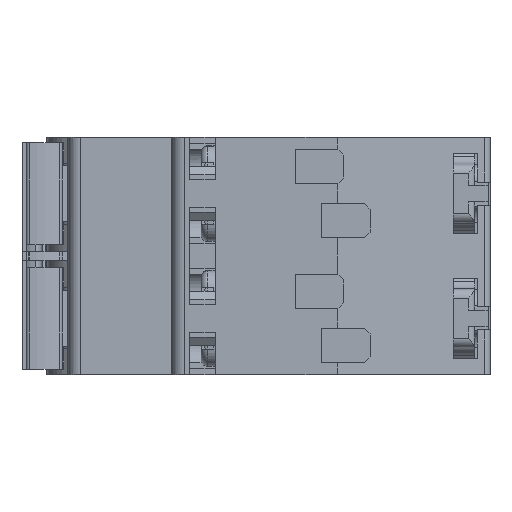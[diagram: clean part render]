
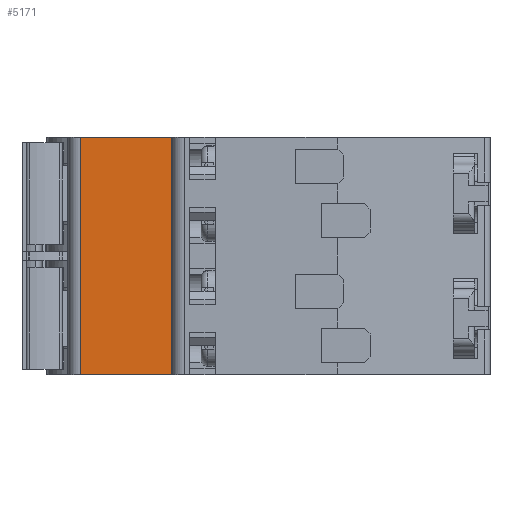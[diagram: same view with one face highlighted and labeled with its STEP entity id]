
A CAD part, front view. The second image highlights one B-rep face of the part: STEP entity #5171.
In plain terms, the highlighted planar face has unit normal (0, -1, 0).
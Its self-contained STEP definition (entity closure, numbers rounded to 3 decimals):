
#716 = ORIENTED_EDGE ( 'NONE', *, *, #3400, .T. ) ;
#1292 = LINE ( 'NONE', #12521, #17061 ) ;
#1722 = EDGE_CURVE ( 'NONE', #4337, #16403, #6128, .T. ) ;
#2529 = CARTESIAN_POINT ( 'NONE',  ( -14.3, 18., -0.075 ) ) ;
#2749 = ORIENTED_EDGE ( 'NONE', *, *, #1722, .T. ) ;
#3400 = EDGE_CURVE ( 'NONE', #10444, #4337, #10225, .T. ) ;
#4337 = VERTEX_POINT ( 'NONE', #15540 ) ;
#4346 = DIRECTION ( 'NONE',  ( -1., 0., 0. ) ) ;
#4669 = CARTESIAN_POINT ( 'NONE',  ( -14.3, 18., 17.5 ) ) ;
#5171 = ADVANCED_FACE ( 'NONE', ( #15755 ), #10154, .T. ) ;
#5826 = ORIENTED_EDGE ( 'NONE', *, *, #10750, .F. ) ;
#6128 = LINE ( 'NONE', #4669, #8505 ) ;
#6246 = ORIENTED_EDGE ( 'NONE', *, *, #17869, .F. ) ;
#6467 = VECTOR ( 'NONE', #10262, 1000. ) ;
#8262 = VECTOR ( 'NONE', #4346, 1000. ) ;
#8505 = VECTOR ( 'NONE', #10277, 1000. ) ;
#10051 = CARTESIAN_POINT ( 'NONE',  ( 0., 18., 37.175 ) ) ;
#10154 = PLANE ( 'NONE',  #12668 ) ;
#10225 = LINE ( 'NONE', #10051, #8262 ) ;
#10245 = CARTESIAN_POINT ( 'NONE',  ( 0., 18., 17.5 ) ) ;
#10262 = DIRECTION ( 'NONE',  ( -1., 0., 0. ) ) ;
#10277 = DIRECTION ( 'NONE',  ( 0., 0., -1. ) ) ;
#10318 = EDGE_LOOP ( 'NONE', ( #5826, #716, #2749, #6246 ) ) ;
#10444 = VERTEX_POINT ( 'NONE', #16023 ) ;
#10449 = LINE ( 'NONE', #13293, #6467 ) ;
#10750 = EDGE_CURVE ( 'NONE', #10444, #13221, #1292, .T. ) ;
#11282 = DIRECTION ( 'NONE',  ( 1., 0., 0. ) ) ;
#12521 = CARTESIAN_POINT ( 'NONE',  ( 0., 18., 17.5 ) ) ;
#12655 = DIRECTION ( 'NONE',  ( 0., -1., 0. ) ) ;
#12668 = AXIS2_PLACEMENT_3D ( 'NONE', #10245, #12655, #11282 ) ;
#13221 = VERTEX_POINT ( 'NONE', #13688 ) ;
#13293 = CARTESIAN_POINT ( 'NONE',  ( 0., 18., -0.075 ) ) ;
#13688 = CARTESIAN_POINT ( 'NONE',  ( 0., 18., -0.075 ) ) ;
#15540 = CARTESIAN_POINT ( 'NONE',  ( -14.3, 18., 37.175 ) ) ;
#15755 = FACE_OUTER_BOUND ( 'NONE', #10318, .T. ) ;
#16023 = CARTESIAN_POINT ( 'NONE',  ( 0., 18., 37.175 ) ) ;
#16403 = VERTEX_POINT ( 'NONE', #2529 ) ;
#17061 = VECTOR ( 'NONE', #18131, 1000. ) ;
#17869 = EDGE_CURVE ( 'NONE', #13221, #16403, #10449, .T. ) ;
#18131 = DIRECTION ( 'NONE',  ( 0., 0., -1. ) ) ;
